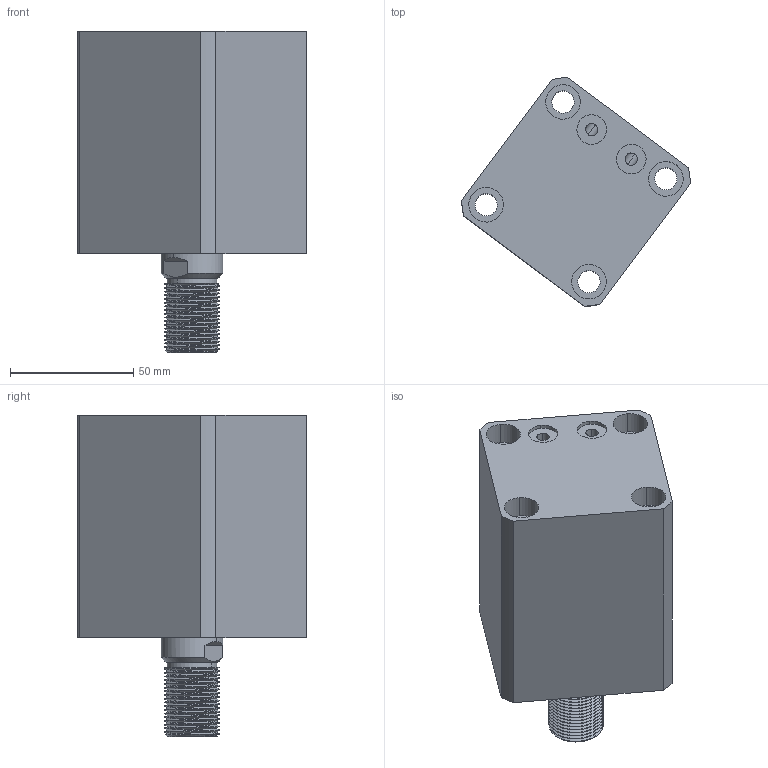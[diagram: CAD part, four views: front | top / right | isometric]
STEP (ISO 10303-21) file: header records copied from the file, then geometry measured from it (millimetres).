
FILE_DESCRIPTION (( 'STEP AP214' ), '1' );
FILE_NAME ('chtb-sdmb40x35w_asm.STEP', '2018-06-06T09:02:50', ( 'Windows' ), ( 'Microsoft' ), 'SwSTEP 2.0', 'SolidWorks 2015', '' );
FILE_SCHEMA (( 'AUTOMOTIVE_DESIGN' ));
Length unit declared in the file: millimetre
Products named in the file (4): CHTB-SDMB40X35NBT; CHTB-SD40X35WHSG; CHTB-SD40QG; chtb-sdmb40x35w_asm
Assembly tree (3 placements, depth 2):
  chtb-sdmb40x35w_asm
    CHTB-SD40QG
    CHTB-SD40X35WHSG
    CHTB-SDMB40X35NBT
Bounding box: 92.73 x 92.73 x 130 mm (x, y, z)
Volume: 391024.3 mm3; surface area: 82510.8 mm2
Topology: 3 solids, 4 shells, 201 faces, 539 edges, 359 vertices
Faces by surface type: cylinder 122, plane 38, bspline 16, torus 14, cone 11
Entity records: 13455 total; most frequent: CARTESIAN_POINT 8586, ORIENTED_EDGE 1066, DIRECTION 904, EDGE_CURVE 533, AXIS2_PLACEMENT_3D 374, VERTEX_POINT 359, EDGE_LOOP 238, ADVANCED_FACE 201
